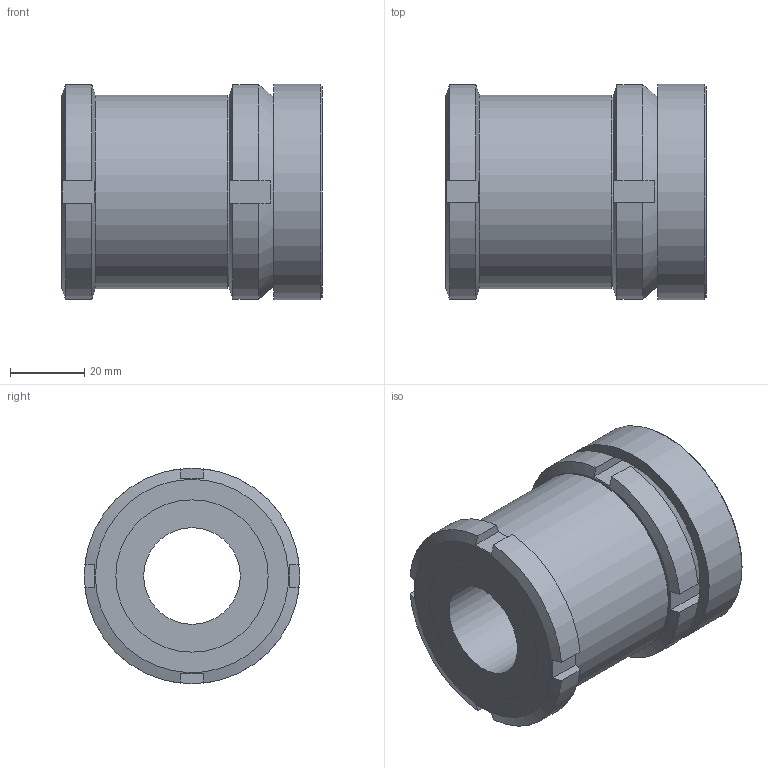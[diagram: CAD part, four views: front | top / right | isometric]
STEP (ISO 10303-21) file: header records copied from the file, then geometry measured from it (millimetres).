
FILE_DESCRIPTION( ( 'STEP AP203' ), '1' );
FILE_NAME( 'C:/Temp/Ganter_Step_05_03_2020/data/3_2/gn350_2/gn_350_2_ni/Stainless Steel-Levelling set GN 350.2-58-26-70-NI (0-0).stp', '2020-03-13T05:28:13', ( 'License CC BY-ND 4.0' ), ( 'CADENAS' ), ' ', 'PARTsolutions', ' ' );
FILE_SCHEMA( ( 'CONFIG_CONTROL_DESIGN' ) );
Length unit declared in the file: millimetre
Products named in the file (4): Stainless Steel-Levelling set GN 350.2-58-26-70-NI (0-0); _Levelling set GN 350.2-58-26-70-ST-G; _Levelling set GN 350.2-58-26-70-ST-K; _Levelling set GN 350.2-58-26-70-ST-P(0)
Assembly tree (3 placements, depth 2):
  Stainless Steel-Levelling set GN 350.2-58-26-70-NI (0-0)
    _Levelling set GN 350.2-58-26-70-ST-G
    _Levelling set GN 350.2-58-26-70-ST-K
    _Levelling set GN 350.2-58-26-70-ST-P(0)
Bounding box: 70 x 58 x 58 mm (x, y, z)
Volume: 122877.1 mm3; surface area: 41267.9 mm2
Topology: 3 solids, 3 shells, 62 faces, 149 edges, 99 vertices
Faces by surface type: plane 36, cylinder 19, cone 5, sphere 2
Full cylindrical faces by diameter (mm): 26 x1, 31.5 x1, 33.485 x1, 34.5 x1, 38.376 x1, 39 x1, 40 x1, 41 x2, 52 x1, 58 x1
Entity records: 1925 total; most frequent: CARTESIAN_POINT 462, DIRECTION 276, ORIENTED_EDGE 248, EDGE_CURVE 124, AXIS2_PLACEMENT_3D 122, EDGE_LOOP 92, VERTEX_POINT 92, FACE_OUTER_BOUND 75
